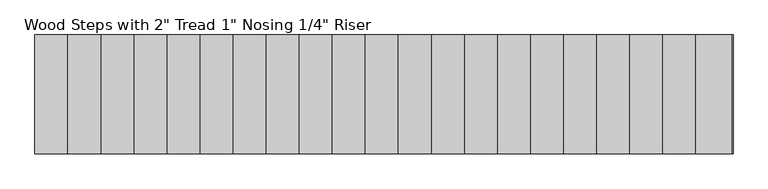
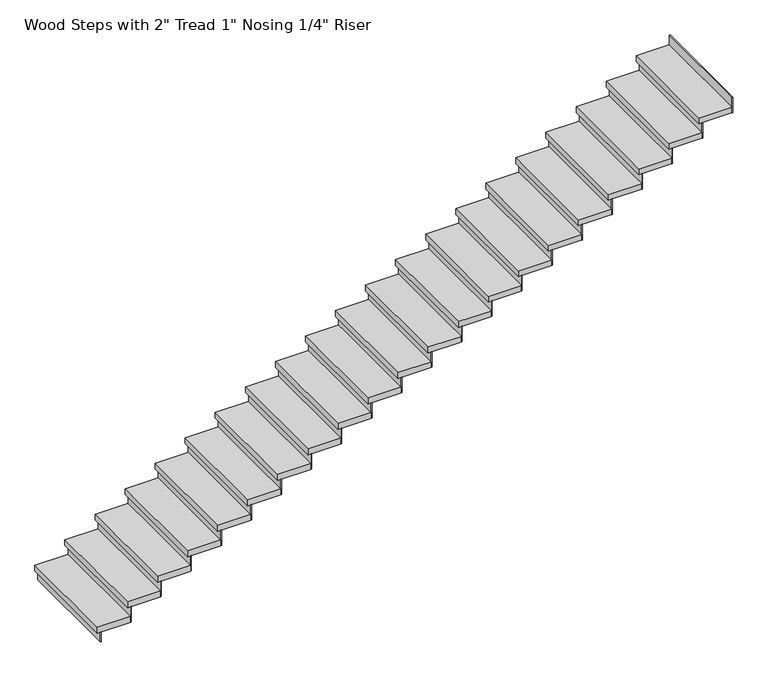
"""IFC4 building model written with IfcOpenShell, lengths in millimetres: stair flight geometry."""

from ifc_helpers import new_model, si_unit, frame, origin, origin_with_axes, place, context, project, spatial, polyline, outline, extrude, source, transform, mapped, element, save


def stair_flight_299978d5(model_context):
    return source(origin(), model_context, "Body", "SweptSolid", [
        extrude(outline(polyline([(291.1854393, 23592.4177722), (284.8354393, 23592.4177722), (284.8354393, 24506.8177722), (291.1854393, 24506.8177722), (291.1854393, 23592.4177722)])), origin_with_axes(), (0.0, 0.0, 1.0), 87.7454545),
        extrude(outline(polyline([(538.8354393, 24506.8177722), (538.8354393, 23592.4177722), (259.4354393, 23592.4177722), (259.4354393, 24506.8177722), (538.8354393, 24506.8177722)])), frame((0.0, 0.0, 87.7454545), z_axis=(0.0, 0.0, 1.0), x_axis=(1.0, 0.0, 0.0)), (0.0, 0.0, 1.0), 50.8),
        extrude(outline(polyline([(545.1854393, 23592.4177722), (538.8354393, 23592.4177722), (538.8354393, 24506.8177722), (545.1854393, 24506.8177722), (545.1854393, 23592.4177722)])), frame((0.0, 0.0, 87.7454545), z_axis=(0.0, 0.0, 1.0), x_axis=(1.0, 0.0, 0.0)), (0.0, 0.0, 1.0), 138.5454545),
        extrude(outline(polyline([(792.8354393, 24506.8177722), (792.8354393, 23592.4177722), (513.4354393, 23592.4177722), (513.4354393, 24506.8177722), (792.8354393, 24506.8177722)])), frame((0.0, 0.0, 226.2909091), z_axis=(0.0, 0.0, 1.0), x_axis=(1.0, 0.0, 0.0)), (0.0, 0.0, 1.0), 50.8),
        extrude(outline(polyline([(799.1854393, 23592.4177722), (792.8354393, 23592.4177722), (792.8354393, 24506.8177722), (799.1854393, 24506.8177722), (799.1854393, 23592.4177722)])), frame((0.0, 0.0, 226.2909091), z_axis=(0.0, 0.0, 1.0), x_axis=(1.0, 0.0, 0.0)), (0.0, 0.0, 1.0), 138.5454545),
        extrude(outline(polyline([(1046.8354393, 24506.8177722), (1046.8354393, 23592.4177722), (767.4354393, 23592.4177722), (767.4354393, 24506.8177722), (1046.8354393, 24506.8177722)])), frame((0.0, 0.0, 364.8363636), z_axis=(0.0, 0.0, 1.0), x_axis=(1.0, 0.0, 0.0)), (0.0, 0.0, 1.0), 50.8),
        extrude(outline(polyline([(1053.1854393, 23592.4177722), (1046.8354393, 23592.4177722), (1046.8354393, 24506.8177722), (1053.1854393, 24506.8177722), (1053.1854393, 23592.4177722)])), frame((0.0, 0.0, 364.8363636), z_axis=(0.0, 0.0, 1.0), x_axis=(1.0, 0.0, 0.0)), (0.0, 0.0, 1.0), 138.5454545),
        extrude(outline(polyline([(1300.8354393, 24506.8177722), (1300.8354393, 23592.4177722), (1021.4354393, 23592.4177722), (1021.4354393, 24506.8177722), (1300.8354393, 24506.8177722)])), frame((0.0, 0.0, 503.3818182), z_axis=(0.0, 0.0, 1.0), x_axis=(1.0, 0.0, 0.0)), (0.0, 0.0, 1.0), 50.8),
        extrude(outline(polyline([(1307.1854393, 23592.4177722), (1300.8354393, 23592.4177722), (1300.8354393, 24506.8177722), (1307.1854393, 24506.8177722), (1307.1854393, 23592.4177722)])), frame((0.0, 0.0, 503.3818182), z_axis=(0.0, 0.0, 1.0), x_axis=(1.0, 0.0, 0.0)), (0.0, 0.0, 1.0), 138.5454545),
        extrude(outline(polyline([(1554.8354393, 24506.8177722), (1554.8354393, 23592.4177722), (1275.4354393, 23592.4177722), (1275.4354393, 24506.8177722), (1554.8354393, 24506.8177722)])), frame((0.0, 0.0, 641.9272727), z_axis=(0.0, 0.0, 1.0), x_axis=(1.0, 0.0, 0.0)), (0.0, 0.0, 1.0), 50.8),
        extrude(outline(polyline([(1561.1854393, 23592.4177722), (1554.8354393, 23592.4177722), (1554.8354393, 24506.8177722), (1561.1854393, 24506.8177722), (1561.1854393, 23592.4177722)])), frame((0.0, 0.0, 641.9272727), z_axis=(0.0, 0.0, 1.0), x_axis=(1.0, 0.0, 0.0)), (0.0, 0.0, 1.0), 138.5454545),
        extrude(outline(polyline([(1808.8354393, 24506.8177722), (1808.8354393, 23592.4177722), (1529.4354393, 23592.4177722), (1529.4354393, 24506.8177722), (1808.8354393, 24506.8177722)])), frame((0.0, 0.0, 780.4727273), z_axis=(0.0, 0.0, 1.0), x_axis=(1.0, 0.0, 0.0)), (0.0, 0.0, 1.0), 50.8),
        extrude(outline(polyline([(1815.1854393, 23592.4177722), (1808.8354393, 23592.4177722), (1808.8354393, 24506.8177722), (1815.1854393, 24506.8177722), (1815.1854393, 23592.4177722)])), frame((0.0, 0.0, 780.4727273), z_axis=(0.0, 0.0, 1.0), x_axis=(1.0, 0.0, 0.0)), (0.0, 0.0, 1.0), 138.5454545),
        extrude(outline(polyline([(2062.8354393, 24506.8177722), (2062.8354393, 23592.4177722), (1783.4354393, 23592.4177722), (1783.4354393, 24506.8177722), (2062.8354393, 24506.8177722)])), frame((0.0, 0.0, 919.0181818), z_axis=(0.0, 0.0, 1.0), x_axis=(1.0, 0.0, 0.0)), (0.0, 0.0, 1.0), 50.8),
        extrude(outline(polyline([(2069.1854393, 23592.4177722), (2062.8354393, 23592.4177722), (2062.8354393, 24506.8177722), (2069.1854393, 24506.8177722), (2069.1854393, 23592.4177722)])), frame((0.0, 0.0, 919.0181818), z_axis=(0.0, 0.0, 1.0), x_axis=(1.0, 0.0, 0.0)), (0.0, 0.0, 1.0), 138.5454545),
        extrude(outline(polyline([(2316.8354393, 24506.8177722), (2316.8354393, 23592.4177722), (2037.4354393, 23592.4177722), (2037.4354393, 24506.8177722), (2316.8354393, 24506.8177722)])), frame((0.0, 0.0, 1057.5636364), z_axis=(0.0, 0.0, 1.0), x_axis=(1.0, 0.0, 0.0)), (0.0, 0.0, 1.0), 50.8),
        extrude(outline(polyline([(2323.1854393, 23592.4177722), (2316.8354393, 23592.4177722), (2316.8354393, 24506.8177722), (2323.1854393, 24506.8177722), (2323.1854393, 23592.4177722)])), frame((0.0, 0.0, 1057.5636364), z_axis=(0.0, 0.0, 1.0), x_axis=(1.0, 0.0, 0.0)), (0.0, 0.0, 1.0), 138.5454545),
        extrude(outline(polyline([(2570.8354393, 24506.8177722), (2570.8354393, 23592.4177722), (2291.4354393, 23592.4177722), (2291.4354393, 24506.8177722), (2570.8354393, 24506.8177722)])), frame((0.0, 0.0, 1196.1090909), z_axis=(0.0, 0.0, 1.0), x_axis=(1.0, 0.0, 0.0)), (0.0, 0.0, 1.0), 50.8),
        extrude(outline(polyline([(2577.1854393, 23592.4177722), (2570.8354393, 23592.4177722), (2570.8354393, 24506.8177722), (2577.1854393, 24506.8177722), (2577.1854393, 23592.4177722)])), frame((0.0, 0.0, 1196.1090909), z_axis=(0.0, 0.0, 1.0), x_axis=(1.0, 0.0, 0.0)), (0.0, 0.0, 1.0), 138.5454545),
        extrude(outline(polyline([(2824.8354393, 24506.8177722), (2824.8354393, 23592.4177722), (2545.4354393, 23592.4177722), (2545.4354393, 24506.8177722), (2824.8354393, 24506.8177722)])), frame((0.0, 0.0, 1334.6545455), z_axis=(0.0, 0.0, 1.0), x_axis=(1.0, 0.0, 0.0)), (0.0, 0.0, 1.0), 50.8),
        extrude(outline(polyline([(2831.1854393, 23592.4177722), (2824.8354393, 23592.4177722), (2824.8354393, 24506.8177722), (2831.1854393, 24506.8177722), (2831.1854393, 23592.4177722)])), frame((0.0, 0.0, 1334.6545455), z_axis=(0.0, 0.0, 1.0), x_axis=(1.0, 0.0, 0.0)), (0.0, 0.0, 1.0), 138.5454545),
        extrude(outline(polyline([(3078.8354393, 24506.8177722), (3078.8354393, 23592.4177722), (2799.4354393, 23592.4177722), (2799.4354393, 24506.8177722), (3078.8354393, 24506.8177722)])), frame((0.0, 0.0, 1473.2), z_axis=(0.0, 0.0, 1.0), x_axis=(1.0, 0.0, 0.0)), (0.0, 0.0, 1.0), 50.8),
        extrude(outline(polyline([(3085.1854393, 23592.4177722), (3078.8354393, 23592.4177722), (3078.8354393, 24506.8177722), (3085.1854393, 24506.8177722), (3085.1854393, 23592.4177722)])), frame((0.0, 0.0, 1473.2), z_axis=(0.0, 0.0, 1.0), x_axis=(1.0, 0.0, 0.0)), (0.0, 0.0, 1.0), 138.5454545),
        extrude(outline(polyline([(3332.8354393, 24506.8177722), (3332.8354393, 23592.4177722), (3053.4354393, 23592.4177722), (3053.4354393, 24506.8177722), (3332.8354393, 24506.8177722)])), frame((0.0, 0.0, 1611.7454545), z_axis=(0.0, 0.0, 1.0), x_axis=(1.0, 0.0, 0.0)), (0.0, 0.0, 1.0), 50.8),
        extrude(outline(polyline([(3339.1854393, 23592.4177722), (3332.8354393, 23592.4177722), (3332.8354393, 24506.8177722), (3339.1854393, 24506.8177722), (3339.1854393, 23592.4177722)])), frame((0.0, 0.0, 1611.7454545), z_axis=(0.0, 0.0, 1.0), x_axis=(1.0, 0.0, 0.0)), (0.0, 0.0, 1.0), 138.5454545),
        extrude(outline(polyline([(3586.8354393, 24506.8177722), (3586.8354393, 23592.4177722), (3307.4354393, 23592.4177722), (3307.4354393, 24506.8177722), (3586.8354393, 24506.8177722)])), frame((0.0, 0.0, 1750.2909091), z_axis=(0.0, 0.0, 1.0), x_axis=(1.0, 0.0, 0.0)), (0.0, 0.0, 1.0), 50.8),
        extrude(outline(polyline([(3593.1854393, 23592.4177722), (3586.8354393, 23592.4177722), (3586.8354393, 24506.8177722), (3593.1854393, 24506.8177722), (3593.1854393, 23592.4177722)])), frame((0.0, 0.0, 1750.2909091), z_axis=(0.0, 0.0, 1.0), x_axis=(1.0, 0.0, 0.0)), (0.0, 0.0, 1.0), 138.5454545),
        extrude(outline(polyline([(3840.8354393, 24506.8177722), (3840.8354393, 23592.4177722), (3561.4354393, 23592.4177722), (3561.4354393, 24506.8177722), (3840.8354393, 24506.8177722)])), frame((0.0, 0.0, 1888.8363636), z_axis=(0.0, 0.0, 1.0), x_axis=(1.0, 0.0, 0.0)), (0.0, 0.0, 1.0), 50.8),
        extrude(outline(polyline([(3847.1854393, 23592.4177722), (3840.8354393, 23592.4177722), (3840.8354393, 24506.8177722), (3847.1854393, 24506.8177722), (3847.1854393, 23592.4177722)])), frame((0.0, 0.0, 1888.8363636), z_axis=(0.0, 0.0, 1.0), x_axis=(1.0, 0.0, 0.0)), (0.0, 0.0, 1.0), 138.5454545),
        extrude(outline(polyline([(4094.8354393, 24506.8177722), (4094.8354393, 23592.4177722), (3815.4354393, 23592.4177722), (3815.4354393, 24506.8177722), (4094.8354393, 24506.8177722)])), frame((0.0, 0.0, 2027.3818182), z_axis=(0.0, 0.0, 1.0), x_axis=(1.0, 0.0, 0.0)), (0.0, 0.0, 1.0), 50.8),
        extrude(outline(polyline([(4101.1854393, 23592.4177722), (4094.8354393, 23592.4177722), (4094.8354393, 24506.8177722), (4101.1854393, 24506.8177722), (4101.1854393, 23592.4177722)])), frame((0.0, 0.0, 2027.3818182), z_axis=(0.0, 0.0, 1.0), x_axis=(1.0, 0.0, 0.0)), (0.0, 0.0, 1.0), 138.5454545),
        extrude(outline(polyline([(4348.8354393, 24506.8177722), (4348.8354393, 23592.4177722), (4069.4354393, 23592.4177722), (4069.4354393, 24506.8177722), (4348.8354393, 24506.8177722)])), frame((0.0, 0.0, 2165.9272727), z_axis=(0.0, 0.0, 1.0), x_axis=(1.0, 0.0, 0.0)), (0.0, 0.0, 1.0), 50.8),
        extrude(outline(polyline([(4355.1854393, 23592.4177722), (4348.8354393, 23592.4177722), (4348.8354393, 24506.8177722), (4355.1854393, 24506.8177722), (4355.1854393, 23592.4177722)])), frame((0.0, 0.0, 2165.9272727), z_axis=(0.0, 0.0, 1.0), x_axis=(1.0, 0.0, 0.0)), (0.0, 0.0, 1.0), 138.5454545),
        extrude(outline(polyline([(4602.8354393, 24506.8177722), (4602.8354393, 23592.4177722), (4323.4354393, 23592.4177722), (4323.4354393, 24506.8177722), (4602.8354393, 24506.8177722)])), frame((0.0, 0.0, 2304.4727273), z_axis=(0.0, 0.0, 1.0), x_axis=(1.0, 0.0, 0.0)), (0.0, 0.0, 1.0), 50.8),
        extrude(outline(polyline([(4609.1854393, 23592.4177722), (4602.8354393, 23592.4177722), (4602.8354393, 24506.8177722), (4609.1854393, 24506.8177722), (4609.1854393, 23592.4177722)])), frame((0.0, 0.0, 2304.4727273), z_axis=(0.0, 0.0, 1.0), x_axis=(1.0, 0.0, 0.0)), (0.0, 0.0, 1.0), 138.5454545),
        extrude(outline(polyline([(4856.8354393, 24506.8177722), (4856.8354393, 23592.4177722), (4577.4354393, 23592.4177722), (4577.4354393, 24506.8177722), (4856.8354393, 24506.8177722)])), frame((0.0, 0.0, 2443.0181818), z_axis=(0.0, 0.0, 1.0), x_axis=(1.0, 0.0, 0.0)), (0.0, 0.0, 1.0), 50.8),
        extrude(outline(polyline([(4863.1854393, 23592.4177722), (4856.8354393, 23592.4177722), (4856.8354393, 24506.8177722), (4863.1854393, 24506.8177722), (4863.1854393, 23592.4177722)])), frame((0.0, 0.0, 2443.0181818), z_axis=(0.0, 0.0, 1.0), x_axis=(1.0, 0.0, 0.0)), (0.0, 0.0, 1.0), 138.5454545),
        extrude(outline(polyline([(5110.8354393, 24506.8177722), (5110.8354393, 23592.4177722), (4831.4354393, 23592.4177722), (4831.4354393, 24506.8177722), (5110.8354393, 24506.8177722)])), frame((0.0, 0.0, 2581.5636364), z_axis=(0.0, 0.0, 1.0), x_axis=(1.0, 0.0, 0.0)), (0.0, 0.0, 1.0), 50.8),
        extrude(outline(polyline([(5117.1854393, 23592.4177722), (5110.8354393, 23592.4177722), (5110.8354393, 24506.8177722), (5117.1854393, 24506.8177722), (5117.1854393, 23592.4177722)])), frame((0.0, 0.0, 2581.5636364), z_axis=(0.0, 0.0, 1.0), x_axis=(1.0, 0.0, 0.0)), (0.0, 0.0, 1.0), 138.5454545),
        extrude(outline(polyline([(5364.8354393, 24506.8177722), (5364.8354393, 23592.4177722), (5085.4354393, 23592.4177722), (5085.4354393, 24506.8177722), (5364.8354393, 24506.8177722)])), frame((0.0, 0.0, 2720.1090909), z_axis=(0.0, 0.0, 1.0), x_axis=(1.0, 0.0, 0.0)), (0.0, 0.0, 1.0), 50.8),
        extrude(outline(polyline([(5371.1854393, 23592.4177722), (5364.8354393, 23592.4177722), (5364.8354393, 24506.8177722), (5371.1854393, 24506.8177722), (5371.1854393, 23592.4177722)])), frame((0.0, 0.0, 2720.1090909), z_axis=(0.0, 0.0, 1.0), x_axis=(1.0, 0.0, 0.0)), (0.0, 0.0, 1.0), 138.5454545),
        extrude(outline(polyline([(5625.1854393, 23592.4177722), (5618.8354393, 23592.4177722), (5618.8354393, 24506.8177722), (5625.1854393, 24506.8177722), (5625.1854393, 23592.4177722)])), frame((0.0, 0.0, 2858.6545455), z_axis=(0.0, 0.0, 1.0), x_axis=(1.0, 0.0, 0.0)), (0.0, 0.0, 1.0), 138.5454545),
        extrude(outline(polyline([(5618.8354393, 24506.8177722), (5618.8354393, 23592.4177722), (5339.4354393, 23592.4177722), (5339.4354393, 24506.8177722), (5618.8354393, 24506.8177722)])), frame((0.0, 0.0, 2858.6545455), z_axis=(0.0, 0.0, 1.0), x_axis=(1.0, 0.0, 0.0)), (0.0, 0.0, 1.0), 50.8),
    ])


if __name__ == "__main__":
    model = new_model("IFC4")
    model_context = context("Model", 3, world=origin())
    ifc_project = project(units=[si_unit("LENGTHUNIT", "METRE", prefix="MILLI")], contexts=[model_context])
    site = spatial("IfcSite", under=ifc_project)
    building = spatial("IfcBuilding", under=site)
    placement = place(None, origin())
    stair_flight_shape = stair_flight_299978d5(model_context)
    element("IfcStairFlight", 1, ObjectType="Wood Steps with 2\" Tread 1\" Nosing 1/4\" Riser", at=placement, inside=building, context=model_context, shape_type="MappedRepresentation", body=[
        mapped(stair_flight_shape, transform((0.0, 0.0, 0.0), x_axis=(1.0, 0.0, 0.0), y_axis=(0.0, 1.0, 0.0), z_axis=(0.0, 0.0, 1.0))),
    ])
    save(model, "model.ifc")
